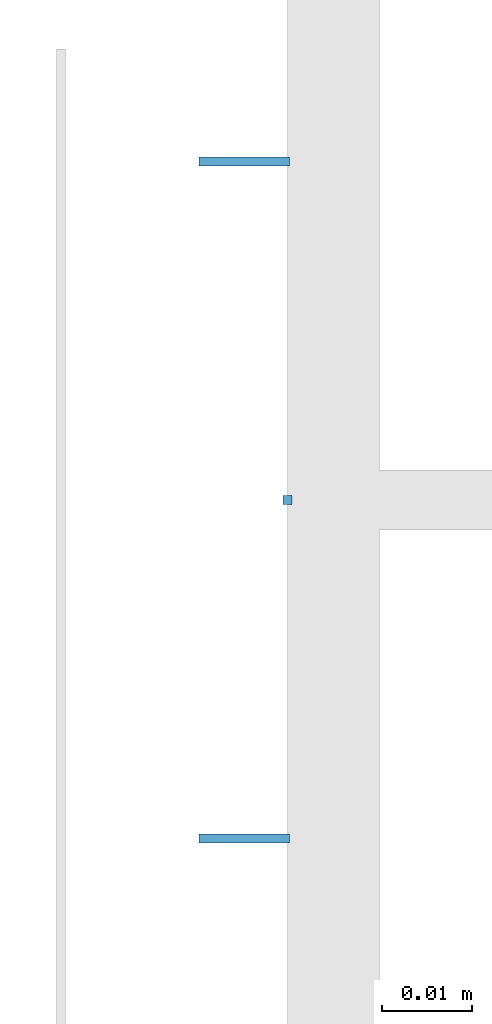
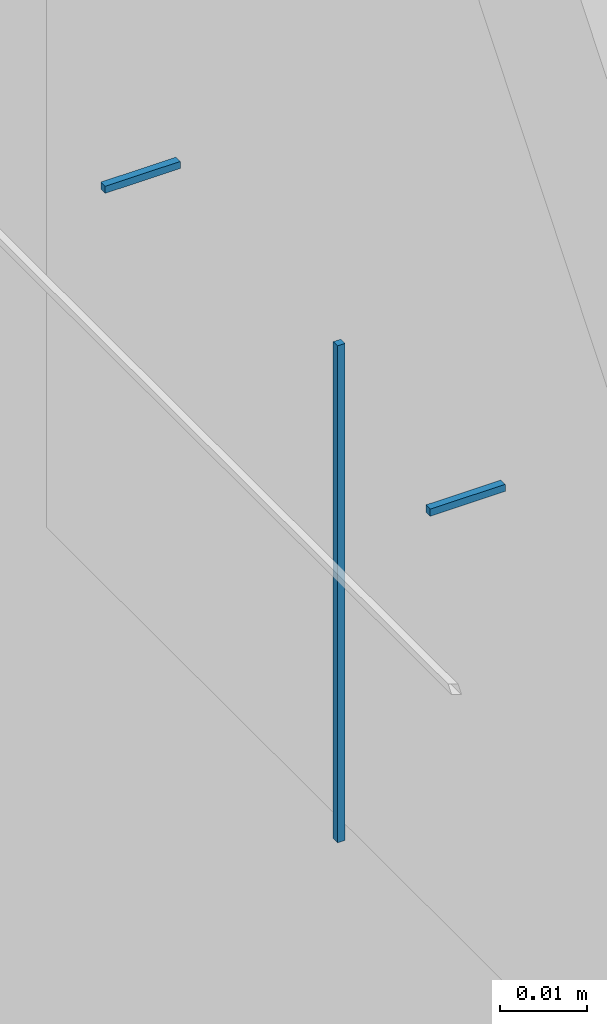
# One storey, part 89 of 186: 3 beams.
"""IFC4X3_ADD2 building model written with IfcOpenShell, lengths in millimetres."""

from ifc_helpers import new_model, si_unit, direction, frame, frame_2d, origin_with_axes, place, context, subcontext, project, spatial, rectangle, extrude, material, element, save


model = new_model("IFC4X3_ADD2")

# Units and contexts
model_context = context("Model", 3, precision=1e-05, world=origin_with_axes(), true_north=direction((0.0, 1.0)))
body_context = subcontext(model_context, "Body", "Model", "MODEL_VIEW")
ifc_project = project(units=[si_unit("LENGTHUNIT", "METRE", prefix="MILLI"), si_unit("AREAUNIT", "SQUARE_METRE"), si_unit("VOLUMEUNIT", "CUBIC_METRE"), si_unit("PLANEANGLEUNIT", "RADIAN"), si_unit("TIMEUNIT", "SECOND"), si_unit("MASSUNIT", "GRAM")], contexts=[model_context])

# Site, building, storey
site_placement = place(None, origin_with_axes())
site = spatial("IfcSite", under=ifc_project, at=site_placement, Name="Site", CompositionType="ELEMENT")
building_placement = place(site_placement, origin_with_axes())
building = spatial("IfcBuilding", under=site, at=building_placement, Name="IFC Building Story")
storey_placement = place(building_placement, frame((0.0, 0.0, 4370.0), z_axis=(0.0, 0.0, 1.0), x_axis=(1.0, 0.0, 0.0)))
storey = spatial("IfcBuildingStorey", under=building, at=storey_placement, Name="ETAGE 10 (1)", Elevation=4370.0)

# Beams
ifc_material = material(Name="STEEL/Accessory_invisible")
beam_placement = place(storey_placement, frame((48494.7886362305, 4800.00061090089, 3882.0), z_axis=(-1.0, 0.0, 0.0), x_axis=(0.0, 0.0, 1.0)))
element("IfcBeam", 1, at=beam_placement, inside=storey, material=ifc_material, Name="ZW1", ObjectType="1*1 10", context=body_context, shape_type="SweptSolid", body=[
    extrude(rectangle(XDim=70.0000000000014, YDim=1.0, at=frame_2d((0.0, 5.95523630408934e-12), x_axis=(1.0, 0.0))), origin_with_axes(), (0.0, 0.0, 1.0), 1.0),
])
for number, where, z_axis, x_axis, name in (
    (2, (48494.4886362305, 4762.5006109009, 3919.5), (-1.0, 0.0, 0.0), (0.0, -1.0, 0.0), "MP21"),
    (3, (48494.4886362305, 4837.5006109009, 3919.5), (-1.0, 0.0, 0.0), (0.0, -1.0, 0.0), "MP21"),
):
    element("IfcBeam", number, at=place(storey_placement, frame(where, z_axis=z_axis, x_axis=x_axis)), inside=storey, material=ifc_material, Name=name, ObjectType="1*1 3", context=body_context, shape_type="SweptSolid", body=[
        extrude(rectangle(XDim=0.9999999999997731, YDim=0.9999999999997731, at=frame_2d((0.0, 5.95523630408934e-12), x_axis=(1.0, 0.0))), origin_with_axes(), (0.0, 0.0, 1.0), 10.0),
    ])

save(model, "model.ifc")
